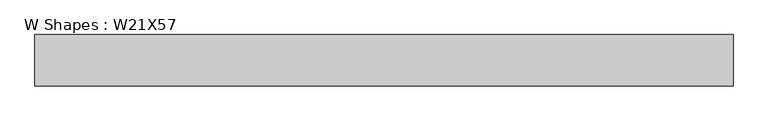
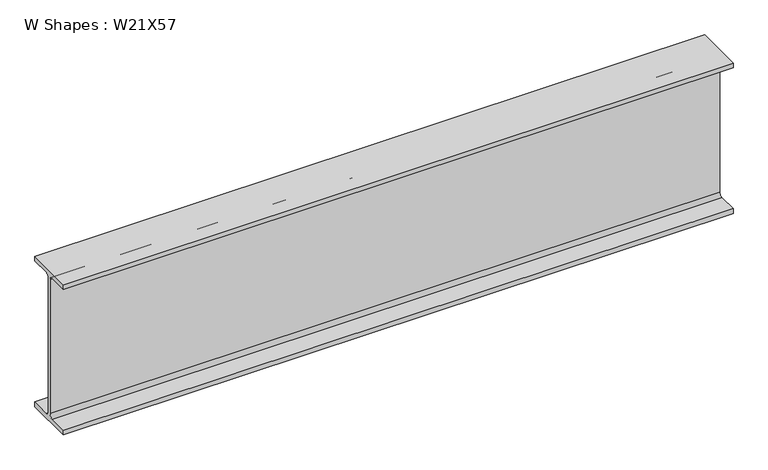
"""IFC4 building model written with IfcOpenShell, lengths in millimetres: beam geometry, W Shapes : W21X57."""

from ifc_helpers import new_model, si_unit, point, frame, frame_2d, origin, place, context, project, spatial, polyline, circle_curve, trimmed, segment, composite_curve, outline, extrude, source, transform, mapped, element, save


def w_shapes_w21x57_8ccef679(model_context):
    return source(origin(), model_context, "Body", "SweptSolid", [
        extrude(outline(composite_curve([segment(polyline([(83.312, -251.46), (83.312, -267.97), (-83.312, -267.97), (-83.312, -251.46), (-17.907, -251.46)]), True, "CONTINUOUS"), segment(trimmed(circle_curve(frame_2d((-17.907, -238.76)), 12.7), [point((-17.907, -251.46))], [point((-5.207, -238.76))], True, "CARTESIAN"), True, "CONTINUOUS"), segment(polyline([(-5.207, -238.76), (-5.207, 238.76)]), True, "CONTINUOUS"), segment(trimmed(circle_curve(frame_2d((-17.907, 238.76)), 12.7), [point((-5.207, 238.76))], [point((-17.907, 251.46))], True, "CARTESIAN"), True, "CONTINUOUS"), segment(polyline([(-17.907, 251.46), (-83.312, 251.46), (-83.312, 267.97), (83.312, 267.97), (83.312, 251.46), (17.907, 251.46)]), True, "CONTINUOUS"), segment(trimmed(circle_curve(frame_2d((17.907, 238.76)), 12.7), [point((17.907, 251.46))], [point((5.207, 238.76))], True, "CARTESIAN"), True, "CONTINUOUS"), segment(polyline([(5.207, 238.76), (5.207, -238.76)]), True, "CONTINUOUS"), segment(trimmed(circle_curve(frame_2d((17.907, -238.76)), 12.7), [point((5.207, -238.76))], [point((17.907, -251.46))], True, "CARTESIAN"), True, "CONTINUOUS"), segment(polyline([(17.907, -251.46), (83.312, -251.46)]), True, "CONTINUOUS")], self_intersect=False)), frame((-1153.988, 0.0, 0.0), z_axis=(1.0, 0.0, 0.0), x_axis=(0.0, 1.0, 0.0)), (0.0, 0.0, 1.0), 2257.938),
    ])


if __name__ == "__main__":
    model = new_model("IFC4")
    model_context = context("Model", 3, world=origin())
    ifc_project = project(units=[si_unit("LENGTHUNIT", "METRE", prefix="MILLI")], contexts=[model_context])
    site = spatial("IfcSite", under=ifc_project)
    building = spatial("IfcBuilding", under=site)
    placement = place(None, origin())
    w_shapes_w21x57_shape = w_shapes_w21x57_8ccef679(model_context)
    element("IfcBeam", 1, ObjectType="W Shapes : W21X57", at=placement, inside=building, context=model_context, shape_type="MappedRepresentation", body=[
        mapped(w_shapes_w21x57_shape, transform((0.0, 0.0, 0.0), x_axis=(1.0, 0.0, 0.0), y_axis=(0.0, 1.0, 0.0), z_axis=(0.0, 0.0, 1.0))),
    ])
    save(model, "model.ifc")
